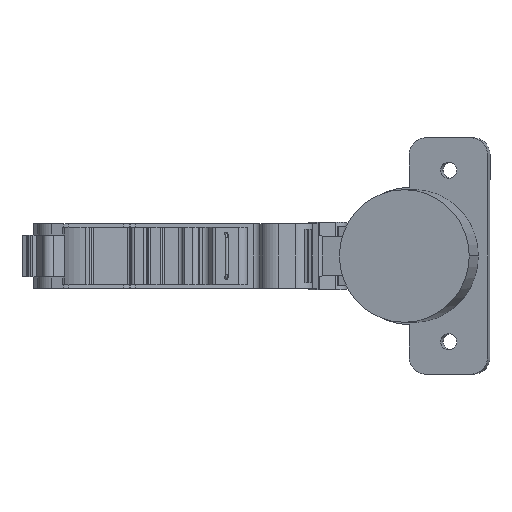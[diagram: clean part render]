
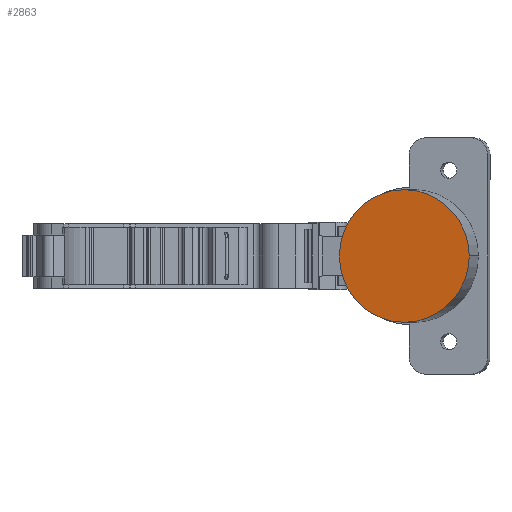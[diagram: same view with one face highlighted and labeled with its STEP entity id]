
A CAD part, front view. The second image highlights one B-rep face of the part: STEP entity #2863.
In plain terms, the highlighted planar face has unit normal (-0.208, -0.978, 0).
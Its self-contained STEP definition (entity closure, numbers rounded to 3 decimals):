
#154 = FACE_OUTER_BOUND ( 'NONE', #3092, .T. ) ;
#1092 = EDGE_CURVE ( 'NONE', #3141, #8110, #5152, .T. ) ;
#1343 = CARTESIAN_POINT ( 'NONE',  ( 23.937, -5.898, 0. ) ) ;
#1764 = CIRCLE ( 'NONE', #6027, 17.4 ) ;
#2177 = DIRECTION ( 'NONE',  ( 0.978, -0.208, 0. ) ) ;
#2326 = CARTESIAN_POINT ( 'NONE',  ( 23.937, -5.898, 0. ) ) ;
#2863 = ADVANCED_FACE ( 'NONE', ( #154 ), #7817, .T. ) ;
#2886 = DIRECTION ( 'NONE',  ( -0.208, -0.978, 0. ) ) ;
#3092 = EDGE_LOOP ( 'NONE', ( #7394, #9757 ) ) ;
#3141 = VERTEX_POINT ( 'NONE', #5303 ) ;
#4523 = CARTESIAN_POINT ( 'NONE',  ( 23.937, -5.898, 0. ) ) ;
#4914 = AXIS2_PLACEMENT_3D ( 'NONE', #4523, #2886, #8655 ) ;
#5152 = CIRCLE ( 'NONE', #6981, 17.4 ) ;
#5303 = CARTESIAN_POINT ( 'NONE',  ( 40.957, -9.516, 0. ) ) ;
#6027 = AXIS2_PLACEMENT_3D ( 'NONE', #1343, #7101, #2177 ) ;
#6981 = AXIS2_PLACEMENT_3D ( 'NONE', #2326, #9455, #9523 ) ;
#7101 = DIRECTION ( 'NONE',  ( -0.208, -0.978, 0. ) ) ;
#7394 = ORIENTED_EDGE ( 'NONE', *, *, #1092, .T. ) ;
#7721 = EDGE_CURVE ( 'NONE', #8110, #3141, #1764, .T. ) ;
#7817 = PLANE ( 'NONE',  #4914 ) ;
#8110 = VERTEX_POINT ( 'NONE', #10176 ) ;
#8655 = DIRECTION ( 'NONE',  ( 0.978, -0.208, 0. ) ) ;
#9455 = DIRECTION ( 'NONE',  ( -0.208, -0.978, 0. ) ) ;
#9523 = DIRECTION ( 'NONE',  ( 0.978, -0.208, 0. ) ) ;
#9757 = ORIENTED_EDGE ( 'NONE', *, *, #7721, .T. ) ;
#10176 = CARTESIAN_POINT ( 'NONE',  ( 6.917, -2.281, 0. ) ) ;
